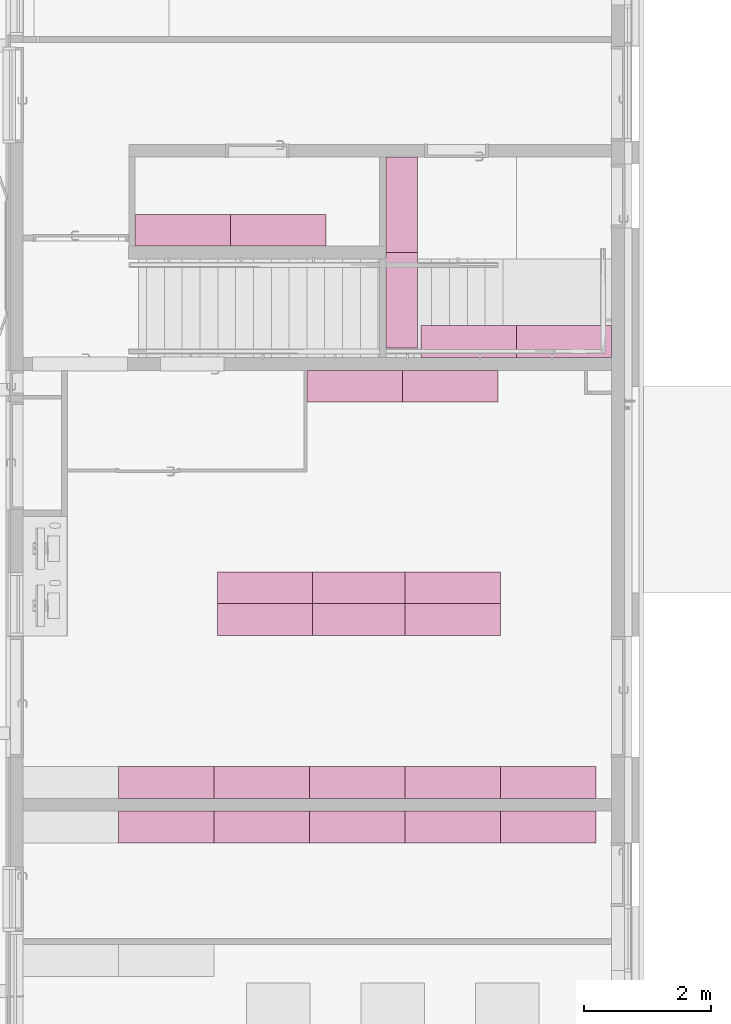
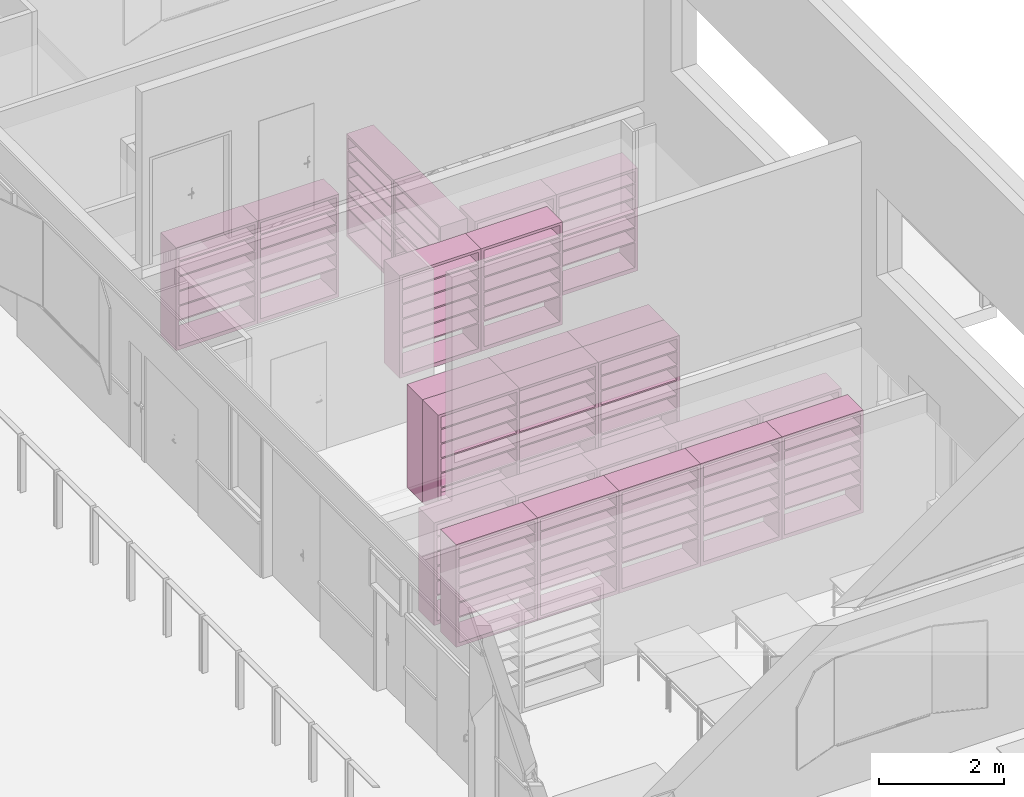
# One storey, part 126 of 137: 24 furnishings.
"""IFC2X3 building model written with IfcOpenShell, lengths in centimetres."""

from ifc_helpers import new_model, entity, si_unit, converted_unit, derived_unit, direction, frame, origin, place, context, subcontext, project, spatial, polyline, outline, extrude, source, transform, mapped, material, type_object, type_shapes, element, save


model = new_model("IFC2X3")

# Units and contexts
model_context = context("Model", 3, precision=0.001, world=origin(), true_north=direction((6.12303176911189e-17, 1.0)))
body_context = subcontext(model_context, "Body", "Model", "MODEL_VIEW")
ifc_project = project(units=[si_unit("LENGTHUNIT", "METRE", prefix="CENTI"), si_unit("AREAUNIT", "SQUARE_METRE"), si_unit("VOLUMEUNIT", "CUBIC_METRE"), converted_unit("PLANEANGLEUNIT", "DEGREE", entity("IfcRatioMeasure", 0.0174532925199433), si_unit("PLANEANGLEUNIT", "RADIAN"), dimensions=[0, 0, 0, 0, 0, 0, 0]), si_unit("MASSUNIT", "GRAM", prefix="KILO"), si_unit("TIMEUNIT", "SECOND"), si_unit("FREQUENCYUNIT", "HERTZ"), si_unit("THERMODYNAMICTEMPERATUREUNIT", "DEGREE_CELSIUS"), derived_unit("THERMALTRANSMITTANCEUNIT", [(si_unit("MASSUNIT", "GRAM", prefix="KILO"), 1), (si_unit("THERMODYNAMICTEMPERATUREUNIT", "KELVIN"), -1), (si_unit("TIMEUNIT", "SECOND"), -3)]), derived_unit("VOLUMETRICFLOWRATEUNIT", [(si_unit("LENGTHUNIT", "METRE"), 3), (si_unit("TIMEUNIT", "SECOND"), -1)]), si_unit("ELECTRICCURRENTUNIT", "AMPERE"), si_unit("ELECTRICVOLTAGEUNIT", "VOLT"), si_unit("POWERUNIT", "WATT"), si_unit("FORCEUNIT", "NEWTON", prefix="KILO"), si_unit("ILLUMINANCEUNIT", "LUX"), si_unit("LUMINOUSFLUXUNIT", "LUMEN"), si_unit("LUMINOUSINTENSITYUNIT", "CANDELA"), derived_unit("USERDEFINED", [(si_unit("MASSUNIT", "GRAM", prefix="KILO"), -1), (si_unit("LENGTHUNIT", "METRE"), -2), (si_unit("TIMEUNIT", "SECOND"), 3), (si_unit("LUMINOUSFLUXUNIT", "LUMEN"), 1)]), derived_unit("LINEARVELOCITYUNIT", [(si_unit("LENGTHUNIT", "METRE"), 1), (si_unit("TIMEUNIT", "SECOND"), -1)]), si_unit("PRESSUREUNIT", "PASCAL"), derived_unit("USERDEFINED", [(si_unit("LENGTHUNIT", "METRE"), -2), (si_unit("MASSUNIT", "GRAM", prefix="KILO"), 1), (si_unit("TIMEUNIT", "SECOND"), -2)])], contexts=[model_context])

# Site, building, storey, space
site_placement = place(None, frame((8.62739174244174, -249.285249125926, 0.0)))
site = spatial("IfcSite", under=ifc_project, at=site_placement, Name="Default", CompositionType="ELEMENT")
building_placement = place(site_placement, origin())
building = spatial("IfcBuilding", under=site, at=building_placement, CompositionType="ELEMENT")
storey_placement = place(building_placement, origin())
storey = spatial("IfcBuildingStorey", under=building, at=storey_placement, Name="RDC", CompositionType="ELEMENT", Elevation=-8.82465566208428e-11)
space_1_placement = place(storey_placement, origin())
space_1 = spatial("IfcSpace", under=storey, at=space_1_placement, Name="050", CompositionType="ELEMENT", InteriorOrExteriorSpace="INTERNAL")

# Furnishings
ifc_material = material(Name="Alu")
furniture_type_1 = type_object("IfcFurnitureType", Name="150 x 50 x 200", AssemblyPlace="NOTDEFINED", material=ifc_material)
shared_shape_1 = source(origin(), body_context, "Body", "SweptSolid", [
    extrude(outline(polyline([(-75.0, -100.0), (75.0, -100.0), (75.0, 100.0), (-75.0, 100.0), (-75.0, -100.0)]), holes=[polyline([(-69.9200000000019, 94.9199999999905), (69.9200000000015, 94.9199999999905), (69.9200000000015, 72.698571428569), (-69.9200000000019, 72.698571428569), (-69.9200000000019, 94.9199999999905)]), polyline([(-69.9200000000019, -92.3800000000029), (-69.9200000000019, -44.1271428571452), (69.9200000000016, -44.1271428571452), (69.9200000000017, -92.3800000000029), (-69.9200000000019, -92.3800000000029)]), polyline([(69.9200000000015, 15.5557142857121), (-69.9200000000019, 15.5557142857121), (-69.9200000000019, 41.5871428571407), (69.9200000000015, 41.5871428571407), (69.9200000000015, 15.5557142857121)]), polyline([(-69.9200000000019, 70.1585714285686), (69.9200000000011, 70.1585714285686), (69.9200000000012, 44.1271428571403), (-69.9200000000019, 44.1271428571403), (-69.9200000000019, 70.1585714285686)]), polyline([(-69.9200000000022, 13.0157142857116), (69.9200000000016, 13.0157142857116), (69.9200000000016, -13.0157142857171), (-69.9200000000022, -13.0157142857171), (-69.9200000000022, 13.0157142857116)]), polyline([(-69.9200000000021, -15.5557142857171), (69.9200000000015, -15.5557142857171), (69.9200000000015, -41.5871428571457), (-69.9200000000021, -41.5871428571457), (-69.9200000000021, -15.5557142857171)])]), frame((0.0, -55.48, 100.0), z_axis=(0.0, 1.0, 0.0), x_axis=(-1.0, 0.0, 0.0)), (0.0, 0.0, 1.0), 50.0),
])
type_shapes(furniture_type_1, [shared_shape_1])
for number, where, name in (
    (1, (3278.9048277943, 4065.66519336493, 0.0), "Etagère:150 x 50 x 200"),
    (2, (3428.9048277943, 4065.66519336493, 0.0), "Etagère:150 x 50 x 200"),
    (3, (3578.9048277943, 4065.66519336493, 0.0), "Etagère:150 x 50 x 200"),
    (4, (3728.9048277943, 4065.66519336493, 0.0), "Etagère:150 x 50 x 200"),
    (5, (3878.9048277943, 4065.66519336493, 0.0), "Etagère:150 x 50 x 200"),
    (6, (3578.9048277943, 4321.66519336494, 0.0), "Etagère:150 x 50 x 200"),
    (7, (3728.9048277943, 4321.66519336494, 0.0), "Etagère:150 x 50 x 200"),
    (8, (3578.9048277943, 4371.66519336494, 0.0), "Etagère:150 x 50 x 200"),
    (9, (3728.9048277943, 4371.66519336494, 0.0), "Etagère:150 x 50 x 200"),
    (10, (3433.9848277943, 4321.66519336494, 0.0), "Etagère:150 x 50 x 200"),
    (11, (3433.9848277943, 4371.66519336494, 0.0), "Etagère:150 x 50 x 200"),
):
    element("IfcFurnishingElement", number, at=place(space_1_placement, frame(where)), inside=space_1, type_object=furniture_type_1, material=ifc_material, Name=name, ObjectType="150 x 50 x 200", context=body_context, shape_type="MappedRepresentation", body=[
        mapped(shared_shape_1, transform((0.0, 0.0, 0.0), scale=1.0)),
    ])

# Space
space_2_placement = place(storey_placement, origin())
space_2 = spatial("IfcSpace", under=storey, at=space_2_placement, Name="073", CompositionType="ELEMENT", InteriorOrExteriorSpace="INTERNAL")

# Furnishings
for number, where, name in (
    (12, (3753.90482781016, 4758.46020813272, 0.0), "Etagère:150 x 50 x 200"),
    (13, (3903.90482781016, 4758.46020813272, 0.0), "Etagère:150 x 50 x 200"),
):
    element("IfcFurnishingElement", number, at=place(space_2_placement, frame(where)), inside=space_2, type_object=furniture_type_1, material=ifc_material, Name=name, ObjectType="150 x 50 x 200", context=body_context, shape_type="MappedRepresentation", body=[
        mapped(shared_shape_1, transform((0.0, 0.0, 0.0), scale=1.0)),
    ])
for number, where, z_axis, x_axis, name in (
    (14, (3679.38482771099, 4792.98020814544, 0.0), (0.0, 0.0, 1.0), (0.0, -1.0, 0.0), "Etagère:150 x 50 x 200"),
    (15, (3679.38482771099, 4942.98020814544, 0.0), (0.0, 0.0, 1.0), (0.0, -1.0, 0.0), "Etagère:150 x 50 x 200"),
):
    element("IfcFurnishingElement", number, at=place(space_2_placement, frame(where, z_axis=z_axis, x_axis=x_axis)), inside=space_2, type_object=furniture_type_1, material=ifc_material, Name=name, ObjectType="150 x 50 x 200", context=body_context, shape_type="MappedRepresentation", body=[
        mapped(shared_shape_1, transform((0.0, 0.0, 0.0), scale=1.0)),
    ])

# Space
space_3_placement = place(storey_placement, origin())
space_3 = spatial("IfcSpace", under=storey, at=space_3_placement, Name="059", CompositionType="ELEMENT", InteriorOrExteriorSpace="INTERNAL")

# Furnishings
for number, where, name in (
    (16, (3304.90482780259, 4933.46020814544, 0.0), "Etagère:150 x 50 x 200"),
    (17, (3454.90482780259, 4933.46020814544, 0.0), "Etagère:150 x 50 x 200"),
):
    element("IfcFurnishingElement", number, at=place(space_3_placement, frame(where)), inside=space_3, type_object=furniture_type_1, material=ifc_material, Name=name, ObjectType="150 x 50 x 200", context=body_context, shape_type="MappedRepresentation", body=[
        mapped(shared_shape_1, transform((0.0, 0.0, 0.0), scale=1.0)),
    ])

# Space
space_4_placement = place(storey_placement, origin())
space_4 = spatial("IfcSpace", under=storey, at=space_4_placement, Name="051", CompositionType="ELEMENT", InteriorOrExteriorSpace="INTERNAL")

# Furnishings
furniture_type_2 = type_object("IfcFurnitureType", Name="150 x 50 x 200", AssemblyPlace="NOTDEFINED", material=ifc_material)
shared_shape_2 = source(origin(), body_context, "Body", "SweptSolid", [
    extrude(outline(polyline([(-75.0, -100.0), (75.0, -100.0), (75.0, 100.0), (-75.0, 100.0), (-75.0, -100.0)]), holes=[polyline([(-69.9200000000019, 94.9199999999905), (69.9200000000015, 94.9199999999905), (69.9200000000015, 72.698571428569), (-69.9200000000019, 72.698571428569), (-69.9200000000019, 94.9199999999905)]), polyline([(-69.9200000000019, -92.3800000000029), (-69.9200000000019, -44.1271428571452), (69.9200000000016, -44.1271428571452), (69.9200000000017, -92.3800000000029), (-69.9200000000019, -92.3800000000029)]), polyline([(69.9200000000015, 15.5557142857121), (-69.9200000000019, 15.5557142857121), (-69.9200000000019, 41.5871428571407), (69.9200000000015, 41.5871428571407), (69.9200000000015, 15.5557142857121)]), polyline([(-69.9200000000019, 70.1585714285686), (69.9200000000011, 70.1585714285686), (69.9200000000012, 44.1271428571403), (-69.9200000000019, 44.1271428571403), (-69.9200000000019, 70.1585714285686)]), polyline([(-69.9200000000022, 13.0157142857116), (69.9200000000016, 13.0157142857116), (69.9200000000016, -13.0157142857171), (-69.9200000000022, -13.0157142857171), (-69.9200000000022, 13.0157142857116)]), polyline([(-69.9200000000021, -15.5557142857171), (69.9200000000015, -15.5557142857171), (69.9200000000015, -41.5871428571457), (-69.9200000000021, -41.5871428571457), (-69.9200000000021, -15.5557142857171)])]), frame((0.0, 5.48000000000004, 100.0), z_axis=(0.0, 1.0, 0.0), x_axis=(-1.0, 0.0, 0.0)), (0.0, 0.0, 1.0), 50.0),
])
type_shapes(furniture_type_2, [shared_shape_2])
for number, where, name in (
    (18, (3278.9048277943, 3934.70519336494, 0.0), "Etagère:150 x 50 x 200"),
    (19, (3428.9048277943, 3934.70519336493, 0.0), "Etagère:150 x 50 x 200"),
    (20, (3578.9048277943, 3934.70519336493, 0.0), "Etagère:150 x 50 x 200"),
    (21, (3728.9048277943, 3934.70519336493, 0.0), "Etagère:150 x 50 x 200"),
    (22, (3878.9048277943, 3934.70519336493, 0.0), "Etagère:150 x 50 x 200"),
):
    element("IfcFurnishingElement", number, at=place(space_4_placement, frame(where)), inside=space_4, type_object=furniture_type_2, material=ifc_material, Name=name, ObjectType="150 x 50 x 200", context=body_context, shape_type="MappedRepresentation", body=[
        mapped(shared_shape_2, transform((0.0, 0.0, 0.0), scale=1.0)),
    ])
for number, where, name in (
    (23, (3574.90482780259, 4627.50020813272, 0.0), "Etagère:150 x 50 x 200"),
    (24, (3724.90482780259, 4627.50020813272, 0.0), "Etagère:150 x 50 x 200"),
):
    element("IfcFurnishingElement", number, at=place(space_1_placement, frame(where)), inside=space_1, type_object=furniture_type_2, material=ifc_material, Name=name, ObjectType="150 x 50 x 200", context=body_context, shape_type="MappedRepresentation", body=[
        mapped(shared_shape_2, transform((0.0, 0.0, 0.0), scale=1.0)),
    ])

save(model, "model.ifc")
